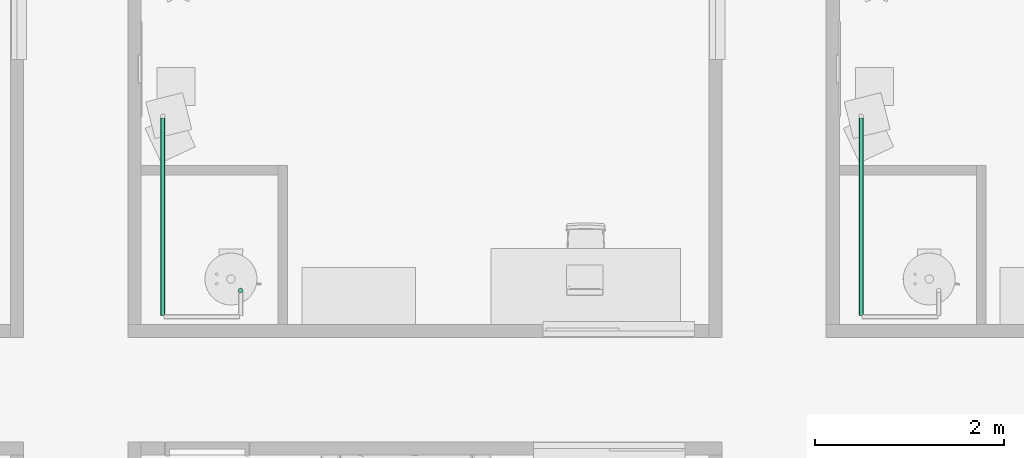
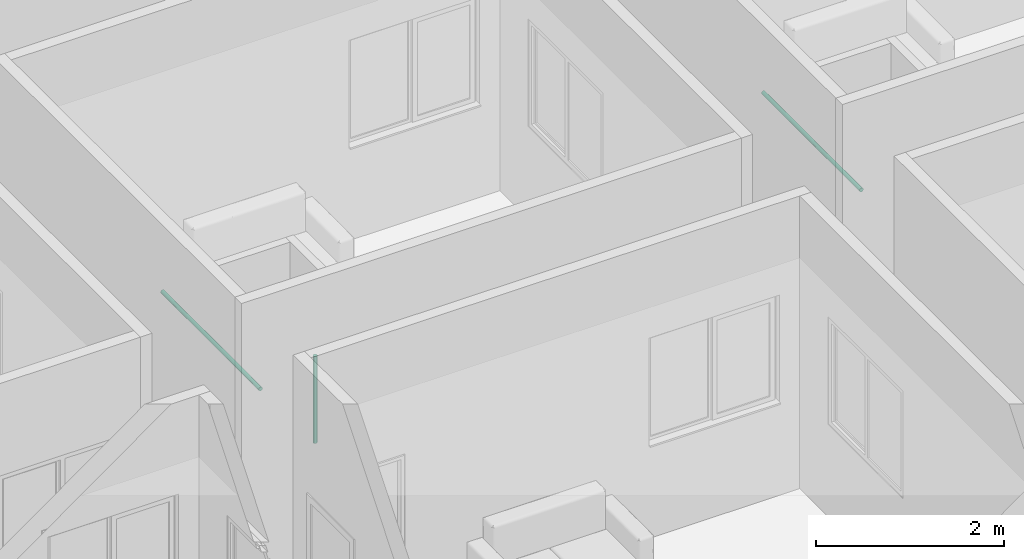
# One storey, part 21 of 72: 3 pipe segments.
"""IFC4 building model written with IfcOpenShell, lengths in centimetres."""

from ifc_helpers import new_model, entity, si_unit, converted_unit, derived_unit, direction, frame, origin, place, context, subcontext, project, spatial, arc, indexed_curve, outline, extrude, type_object, element, save


model = new_model("IFC4")

# Units and contexts
model_context = context("Model", 3, precision=0.001, world=origin(), true_north=direction((6.123233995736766e-17, 1.0)))
body_context = subcontext(model_context, "Body", "Model", "MODEL_VIEW")
ifc_project = project(units=[si_unit("LENGTHUNIT", "METRE", prefix="CENTI"), si_unit("AREAUNIT", "SQUARE_METRE"), si_unit("VOLUMEUNIT", "CUBIC_METRE"), derived_unit("THERMALTRANSMITTANCEUNIT", [(si_unit("MASSUNIT", "GRAM", prefix="KILO"), 1), (si_unit("THERMODYNAMICTEMPERATUREUNIT", "KELVIN"), -1), (si_unit("TIMEUNIT", "SECOND"), -3)]), converted_unit("PLANEANGLEUNIT", "DEGREE", entity("IfcPlaneAngleMeasure", 0.017453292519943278), si_unit("PLANEANGLEUNIT", "RADIAN"), dimensions=[0, 0, 0, 0, 0, 0, 0]), derived_unit("MASSDENSITYUNIT", [(si_unit("MASSUNIT", "GRAM", prefix="KILO"), 1), (si_unit("LENGTHUNIT", "METRE"), -3)]), derived_unit("VAPORPERMEABILITYUNIT", [(si_unit("LENGTHUNIT", "METRE"), -1), (si_unit("TIMEUNIT", "SECOND"), 1)]), derived_unit("USERDEFINED", [(si_unit("MASSUNIT", "GRAM", prefix="KILO"), 1), (si_unit("TIMEUNIT", "SECOND"), -3), (si_unit("LENGTHUNIT", "METRE"), 3), (si_unit("ELECTRICCURRENTUNIT", "AMPERE"), -2)]), derived_unit("SPECIFICHEATCAPACITYUNIT", [(si_unit("THERMODYNAMICTEMPERATUREUNIT", "KELVIN"), -1), (si_unit("LENGTHUNIT", "METRE"), 2), (si_unit("TIMEUNIT", "SECOND"), -2)]), derived_unit("THERMALCONDUCTANCEUNIT", [(si_unit("MASSUNIT", "GRAM", prefix="KILO"), 1), (si_unit("THERMODYNAMICTEMPERATUREUNIT", "KELVIN"), -1), (si_unit("TIMEUNIT", "SECOND"), -3), (si_unit("LENGTHUNIT", "METRE"), 1)]), si_unit("PRESSUREUNIT", "PASCAL"), derived_unit("MODULUSOFELASTICITYUNIT", [(si_unit("MASSUNIT", "GRAM", prefix="KILO"), 1), (si_unit("LENGTHUNIT", "METRE"), -1), (si_unit("TIMEUNIT", "SECOND"), -2)]), derived_unit("THERMALEXPANSIONCOEFFICIENTUNIT", [(si_unit("THERMODYNAMICTEMPERATUREUNIT", "KELVIN"), -1)])], contexts=[model_context])

# Site, building, storey
site_placement = place(None, origin())
site = spatial("IfcSite", under=ifc_project, at=site_placement, Name="Default", CompositionType="ELEMENT")
building_placement = place(site_placement, origin())
building = spatial("IfcBuilding", under=site, at=building_placement, Name="IDS Escape Game Building", CompositionType="ELEMENT")
storey_placement = place(building_placement, frame((0.0, 0.0, 800.0)))
storey = spatial("IfcBuildingStorey", under=building, at=storey_placement, Name="02_Second Floor", CompositionType="ELEMENT", Elevation=800.0)

# Pipe segments
pipe_segment_type = type_object("IfcPipeSegmentType", Name="Pipe Types:Piping Aluminum", PredefinedType="NOTDEFINED")
pipe_segment_1_placement = place(storey_placement, origin())
element("IfcPipeSegment", 1, at=pipe_segment_1_placement, inside=storey, type_object=pipe_segment_type, Name="Pipe Types:Piping Aluminum", ObjectType="Pipe Types:Piping Aluminum", PredefinedType="NOTDEFINED", context=body_context, shape_type="SweptSolid", body=[
    extrude(outline(indexed_curve([(2.412999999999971, 0.0), (1.7062486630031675, 1.7062486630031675), (0.0, 2.412999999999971), (-1.7062486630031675, 1.7062486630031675), (-2.412999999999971, 0.0), (-1.7062486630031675, -1.7062486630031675), (0.0, -2.412999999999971), (1.7062486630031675, -1.7062486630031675)], segments=[arc(1, 2, 3), arc(3, 4, 5), arc(5, 6, 7), arc(7, 8, 1)], self_intersect=False)), frame((1588.1500000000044, 686.9000000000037, 128.0), z_axis=(0.0, 0.0, 1.0), x_axis=(-1.0, 0.0, 0.0)), (0.0, 0.0, 1.0), 112.90000000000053),
])
pipe_segment_2_placement = place(storey_placement, origin())
element("IfcPipeSegment", 2, at=pipe_segment_2_placement, inside=storey, type_object=pipe_segment_type, Name="Pipe Types:Piping Aluminum", ObjectType="Pipe Types:Piping Aluminum", PredefinedType="NOTDEFINED", context=body_context, shape_type="SweptSolid", body=[
    extrude(outline(indexed_curve([(2.412999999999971, 0.0), (1.7062486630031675, 1.7062486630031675), (0.0, 2.412999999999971), (-1.7062486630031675, 1.7062486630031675), (-2.412999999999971, 0.0), (-1.7062486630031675, -1.7062486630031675), (0.0, -2.412999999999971), (1.7062486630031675, -1.7062486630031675)], segments=[arc(1, 2, 3), arc(3, 4, 5), arc(5, 6, 7), arc(7, 8, 1)], self_intersect=False)), frame((1506.0467168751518, 660.3648279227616, 242.0), z_axis=(0.0, 1.0, 0.0), x_axis=(1.0, 0.0, 0.0)), (0.0, 0.0, 1.0), 208.80000000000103),
])
pipe_segment_3_placement = place(storey_placement, origin())
element("IfcPipeSegment", 3, at=pipe_segment_3_placement, inside=storey, type_object=pipe_segment_type, Name="Pipe Types:Piping Aluminum", ObjectType="Pipe Types:Piping Aluminum", PredefinedType="NOTDEFINED", context=body_context, shape_type="SweptSolid", body=[
    extrude(outline(indexed_curve([(2.412999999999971, 0.0), (1.7062486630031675, 1.7062486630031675), (0.0, 2.412999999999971), (-1.7062486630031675, 1.7062486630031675), (-2.412999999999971, 0.0), (-1.7062486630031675, -1.7062486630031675), (0.0, -2.412999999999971), (1.7062486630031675, -1.7062486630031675)], segments=[arc(1, 2, 3), arc(3, 4, 5), arc(5, 6, 7), arc(7, 8, 1)], self_intersect=False)), frame((2244.0467168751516, 660.3648279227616, 242.0), z_axis=(0.0, 1.0, 0.0), x_axis=(1.0, 0.0, 0.0)), (0.0, 0.0, 1.0), 208.80000000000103),
])

save(model, "model.ifc")
